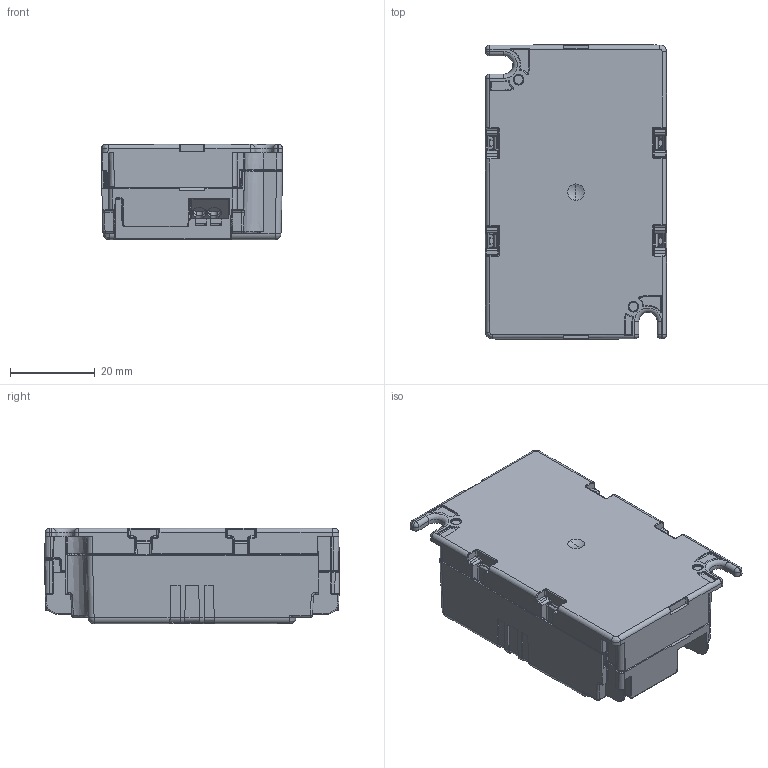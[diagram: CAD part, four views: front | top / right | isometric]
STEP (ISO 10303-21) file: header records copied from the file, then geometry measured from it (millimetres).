
FILE_DESCRIPTION((''),'2;1');
FILE_NAME('15013851Z_DATAMEC_70X43X22','2020-03-23T16:04:43',('elon.guo'),(''),'CREO PARAMETRIC BY PTC INC, 2019164','CREO PARAMETRIC BY PTC INC, 2019164','');
FILE_SCHEMA(('CONFIG_CONTROL_DESIGN'));
Products named in the file (1): 15013851Z_DATAMEC_70X43X22
Bounding box: 42.79 x 69.58 x 22.5 mm (x, y, z)
Volume: 19431.1 mm3; surface area: 28972.5 mm2
Topology: 1 solids, 2 shells, 4481 faces, 11706 edges, 7114 vertices
Faces by surface type: cylinder 1626, plane 1344, bspline 618, extrusion 462, sphere 218, torus 156, cone 57
Entity records: 172173 total; most frequent: CARTESIAN_POINT 70503, ORIENTED_EDGE 22999, DIRECTION 18180, EDGE_CURVE 11501, VERTEX_POINT 7114, VECTOR 6114, AXIS2_PLACEMENT_3D 6033, LINE 5652
